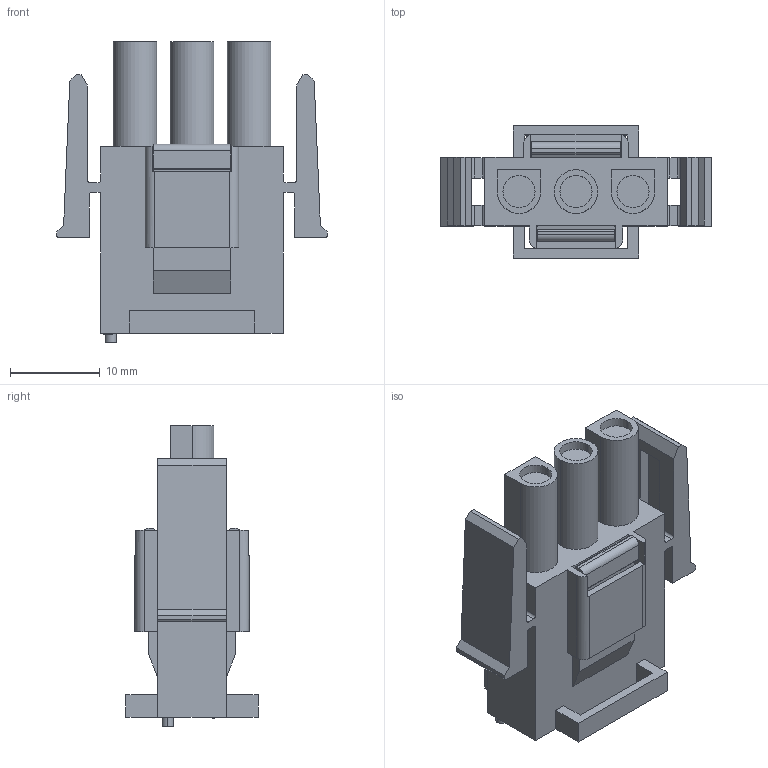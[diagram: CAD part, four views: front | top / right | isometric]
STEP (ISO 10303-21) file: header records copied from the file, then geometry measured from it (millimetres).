
FILE_DESCRIPTION (( 'STEP AP214' ), '1' );
FILE_NAME ('20687-Front_Housing.STEP', '2011-07-06T13:53:04', ( 'Vicor Employee' ), ( 'Vicor Corporation' ), 'SwSTEP 2.0', 'SolidWorks 2010', '' );
FILE_SCHEMA (( 'AUTOMOTIVE_DESIGN' ));
Length unit declared in the file: inch
Products named in the file (1): 20687-Front_Housing
Bounding box: 30.12 x 14.73 x 33.53 mm (x, y, z)
Volume: 5008.5 mm3; surface area: 4045.4 mm2
Topology: 1 solids, 1 shells, 162 faces, 471 edges, 314 vertices
Faces by surface type: plane 112, cylinder 50
Entity records: 5403 total; most frequent: CARTESIAN_POINT 948, ORIENTED_EDGE 942, DIRECTION 901, EDGE_CURVE 471, LINE 367, VECTOR 367, VERTEX_POINT 314, AXIS2_PLACEMENT_3D 267
